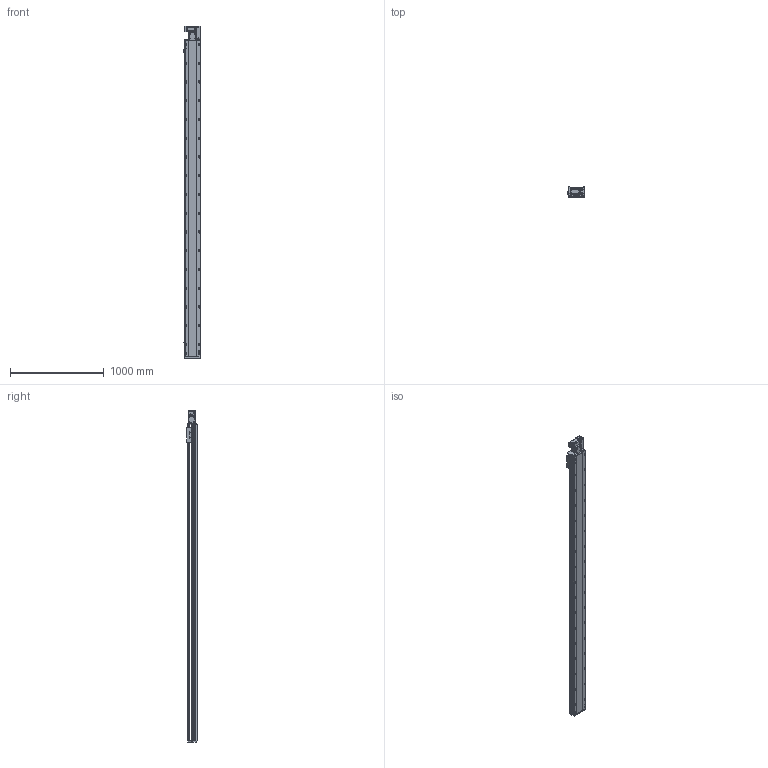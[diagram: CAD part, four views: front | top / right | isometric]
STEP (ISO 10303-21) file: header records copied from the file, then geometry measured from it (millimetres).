
FILE_DESCRIPTION (( 'STEP AP214' ), '1' );
FILE_NAME ('RTB17S-XX-3100-R-M40-C4.STEP', '2025-12-11T07:58:19', ( '' ), ( '' ), 'SwSTEP 2.0', 'SolidWorks 2018', '' );
FILE_SCHEMA (( 'AUTOMOTIVE_DESIGN' ));
Length unit declared in the file: millimetre
Products named in the file (14): RTB17S-R-々湍釱蚾饜-400W^RTB17S-XX-XX-R-M40-C4; RTB17S-L-014-T20--々湍釱^RTB17S-R-々湍釱蚾饜-400W_RTB17S-XX-XX-R-M40-C4; RTB17S-L-004佪裝蹟譫蟀諉釱^RTB17S-XX-XX-R-M40-C4; RTB14-L-018P^RTB17S-R-々湍釱蚾饜-400W_RTB17S-XX-XX-R-M40-C4; RTB17-R-011菁釱^RTB17S-XX-XX-R-M40-C4; RTB17S-L-001耜醱啣^RTB17S-XX-XX-R-M40-C4; RTB14-L-005P--轴承塑胶压盖^RTB17S-R-皮带座装配-400W_RTB17S-XX-XX-R-M40-C4; RTB14-L-017P^RTB17S-R-々湍釱蚾饜-400W_RTB17S-XX-XX-R-M40-C4; 400W侜督萇儂^RTB17S-XX-XX-R-M40-C4; RTB14-L-008-M20--萇儂啣^RTB17S-R-々湍釱蚾饜-400W_RTB17S-XX-XX-R-M40-C4; OMRON EE-SX672 传感器^RTB17S-XX-XX-R-M40-C4; RTB17S-L-007奻裔^RTB17S-XX-XX-R-M40-C4; RTH13-BL-012覜茼え俋离^RTB17S-XX-XX-R-M40-C4; RTB17S-XX-3100-R-M40-C4
Assembly tree (16 placements, depth 3):
  RTB17S-XX-3100-R-M40-C4
    RTB17-R-011菁釱^RTB17S-XX-XX-R-M40-C4
    RTB17S-L-007奻裔^RTB17S-XX-XX-R-M40-C4
    OMRON EE-SX672 传感器^RTB17S-XX-XX-R-M40-C4  x3
    RTB17S-L-001耜醱啣^RTB17S-XX-XX-R-M40-C4
    400W侜督萇儂^RTB17S-XX-XX-R-M40-C4
    RTB17S-L-004佪裝蹟譫蟀諉釱^RTB17S-XX-XX-R-M40-C4
    RTH13-BL-012覜茼え俋离^RTB17S-XX-XX-R-M40-C4
    RTB17S-R-々湍釱蚾饜-400W^RTB17S-XX-XX-R-M40-C4
      RTB17S-L-014-T20--々湍釱^RTB17S-R-々湍釱蚾饜-400W_RTB17S-XX-XX-R-M40-C4
      RTB14-L-005P--轴承塑胶压盖^RTB17S-R-皮带座装配-400W_RTB17S-XX-XX-R-M40-C4
      RTB14-L-008-M20--萇儂啣^RTB17S-R-々湍釱蚾饜-400W_RTB17S-XX-XX-R-M40-C4
      RTB14-L-017P^RTB17S-R-々湍釱蚾饜-400W_RTB17S-XX-XX-R-M40-C4  x2
      RTB14-L-018P^RTB17S-R-々湍釱蚾饜-400W_RTB17S-XX-XX-R-M40-C4
Bounding box: 183.5 x 108 x 3541 mm (x, y, z)
Volume: 29497044.2 mm3; surface area: 3366476.1 mm2
Topology: 15 solids, 15 shells, 2381 faces, 6681 edges, 4365 vertices
Faces by surface type: plane 1090, cylinder 843, bspline 301, cone 139, torus 8
Entity records: 71081 total; most frequent: CARTESIAN_POINT 20286, ORIENTED_EDGE 10206, DIRECTION 9386, EDGE_CURVE 5103, VERTEX_POINT 3353, AXIS2_PLACEMENT_3D 3283, LINE 2820, VECTOR 2820
